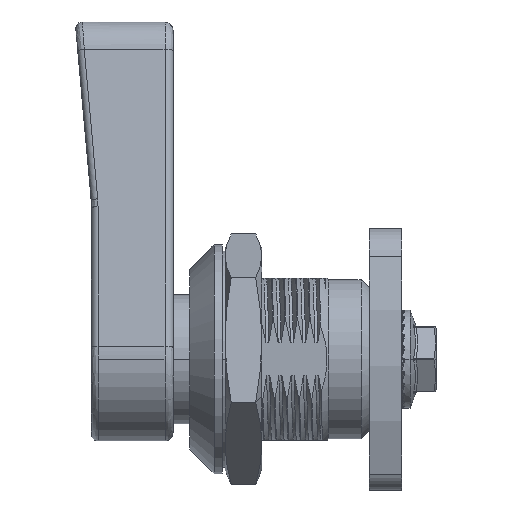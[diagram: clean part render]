
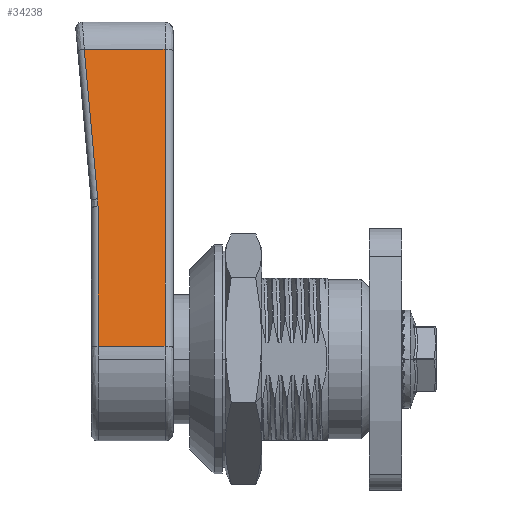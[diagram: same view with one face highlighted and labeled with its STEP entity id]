
A CAD part, left-side view. The second image highlights one B-rep face of the part: STEP entity #34238.
In plain terms, the highlighted planar face has unit normal (-0.987, 0, 0.161) as drawn and (-0.987, -0.161, 0) by its records, which use the part's own axes.
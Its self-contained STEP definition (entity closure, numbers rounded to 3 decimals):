
#13 = CARTESIAN_POINT ( 'NONE',  ( -3.948, -37.943, 10.884 ) ) ;
#2394 = ORIENTED_EDGE ( 'NONE', *, *, #16676, .F. ) ;
#2999 = EDGE_CURVE ( 'NONE', #17406, #3087, #26921, .T. ) ;
#3087 = VERTEX_POINT ( 'NONE', #28986 ) ;
#4014 = FACE_OUTER_BOUND ( 'NONE', #18285, .T. ) ;
#4439 = DIRECTION ( 'NONE',  ( 0.161, -0.987, 0. ) ) ;
#4742 = CARTESIAN_POINT ( 'NONE',  ( -9.87, -1.609, 0. ) ) ;
#5126 = AXIS2_PLACEMENT_3D ( 'NONE', #7278, #32312, #20106 ) ;
#5465 = EDGE_CURVE ( 'NONE', #29925, #38759, #38461, .T. ) ;
#6554 = VERTEX_POINT ( 'NONE', #17480 ) ;
#7278 = CARTESIAN_POINT ( 'NONE',  ( -9.87, -1.609, 0. ) ) ;
#8212 = DIRECTION ( 'NONE',  ( 0., 0., 1. ) ) ;
#8346 = ORIENTED_EDGE ( 'NONE', *, *, #5465, .T. ) ;
#10128 = CARTESIAN_POINT ( 'NONE',  ( -3.948, -37.943, 1. ) ) ;
#10360 = DIRECTION ( 'NONE',  ( -0.16, 0.983, -0.088 ) ) ;
#11279 = ORIENTED_EDGE ( 'NONE', *, *, #2999, .F. ) ;
#11373 = ORIENTED_EDGE ( 'NONE', *, *, #26130, .F. ) ;
#11815 = VECTOR ( 'NONE', #37085, 1000. ) ;
#12756 = CARTESIAN_POINT ( 'NONE',  ( -7.035, -19.003, 9.2 ) ) ;
#14236 = ORIENTED_EDGE ( 'NONE', *, *, #36587, .T. ) ;
#15818 = VERTEX_POINT ( 'NONE', #37548 ) ;
#15956 = CARTESIAN_POINT ( 'NONE',  ( -7.087, -18.681, 9.2 ) ) ;
#16676 = EDGE_CURVE ( 'NONE', #15818, #6554, #38990, .T. ) ;
#17406 = VERTEX_POINT ( 'NONE', #15956 ) ;
#17480 = CARTESIAN_POINT ( 'NONE',  ( -9.87, -1.609, 9.2 ) ) ;
#18285 = EDGE_LOOP ( 'NONE', ( #2394, #14236, #8346, #26162, #11279, #11373 ) ) ;
#19879 = VECTOR ( 'NONE', #8212, 1000. ) ;
#20106 = DIRECTION ( 'NONE',  ( 0.161, -0.987, 0. ) ) ;
#20240 = LINE ( 'NONE', #35924, #11815 ) ;
#22153 = DIRECTION ( 'NONE',  ( 0., 0., 1. ) ) ;
#22309 = CARTESIAN_POINT ( 'NONE',  ( -7.087, -18.681, 9.2 ) ) ;
#22769 = LINE ( 'NONE', #37683, #35562 ) ;
#22965 = PLANE ( 'NONE',  #5126 ) ;
#23397 = LINE ( 'NONE', #35240, #25419 ) ;
#25174 = CARTESIAN_POINT ( 'NONE',  ( -6.93, -19.646, 9.243 ) ) ;
#25419 = VECTOR ( 'NONE', #4439, 1000. ) ;
#26130 = EDGE_CURVE ( 'NONE', #6554, #17406, #20240, .T. ) ;
#26162 = ORIENTED_EDGE ( 'NONE', *, *, #32238, .T. ) ;
#26921 = B_SPLINE_CURVE_WITH_KNOTS ( 'NONE', 3,
 ( #22309, #12756, #28185, #25174 ),
 .UNSPECIFIED., .F., .F.,
 ( 4, 4 ),
 ( 0., 1. ),
 .UNSPECIFIED. ) ;
#27327 = VECTOR ( 'NONE', #22153, 1000. ) ;
#28185 = CARTESIAN_POINT ( 'NONE',  ( -6.982, -19.325, 9.214 ) ) ;
#28986 = CARTESIAN_POINT ( 'NONE',  ( -6.93, -19.646, 9.243 ) ) ;
#29925 = VERTEX_POINT ( 'NONE', #10128 ) ;
#31695 = CARTESIAN_POINT ( 'NONE',  ( -3.948, -37.943, 1. ) ) ;
#32238 = EDGE_CURVE ( 'NONE', #38759, #3087, #22769, .T. ) ;
#32312 = DIRECTION ( 'NONE',  ( -0.987, -0.161, 0. ) ) ;
#34238 = ADVANCED_FACE ( 'NONE', ( #4014 ), #22965, .T. ) ;
#35240 = CARTESIAN_POINT ( 'NONE',  ( -9.87, -1.609, 1. ) ) ;
#35562 = VECTOR ( 'NONE', #10360, 1000. ) ;
#35924 = CARTESIAN_POINT ( 'NONE',  ( -7.072, -18.773, 9.2 ) ) ;
#36587 = EDGE_CURVE ( 'NONE', #15818, #29925, #23397, .T. ) ;
#37085 = DIRECTION ( 'NONE',  ( 0.161, -0.987, 0. ) ) ;
#37548 = CARTESIAN_POINT ( 'NONE',  ( -9.87, -1.609, 1. ) ) ;
#37683 = CARTESIAN_POINT ( 'NONE',  ( -6.93, -19.646, 9.243 ) ) ;
#38461 = LINE ( 'NONE', #31695, #27327 ) ;
#38759 = VERTEX_POINT ( 'NONE', #13 ) ;
#38990 = LINE ( 'NONE', #4742, #19879 ) ;
